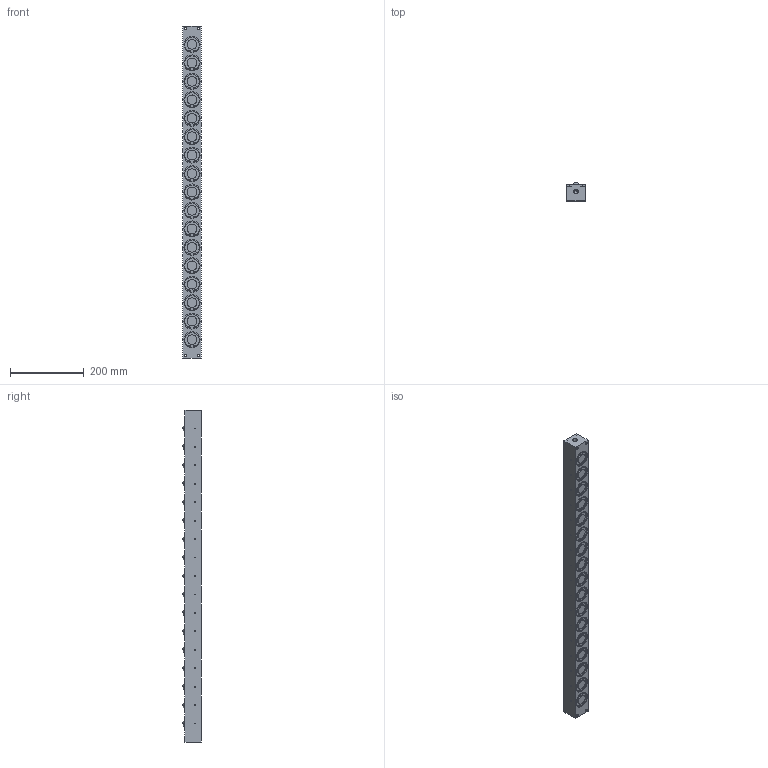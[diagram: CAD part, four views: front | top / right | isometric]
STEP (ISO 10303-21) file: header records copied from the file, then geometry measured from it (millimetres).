
FILE_DESCRIPTION (( 'STEP AP203' ), '1' );
FILE_NAME ('PVL55SW-17.STEP', '2016-01-06T02:25:39', ( '' ), ( '' ), 'SwSTEP 2.0', 'SolidWorks 2013', '' );
FILE_SCHEMA (( 'CONFIG_CONTROL_DESIGN' ));
Length unit declared in the file: millimetre
Products named in the file (1): PVL55SW-17
Bounding box: 49 x 50 x 900 mm (x, y, z)
Volume: 1906326.7 mm3; surface area: 222912.4 mm2
Topology: 2 solids, 2 shells, 813 faces, 1895 edges, 1209 vertices
Faces by surface type: cylinder 498, plane 207, cone 74, sphere 34
Entity records: 23278 total; most frequent: DIRECTION 4553, CARTESIAN_POINT 3846, ORIENTED_EDGE 3646, AXIS2_PLACEMENT_3D 1916, EDGE_CURVE 1823, VERTEX_POINT 1209, CIRCLE 1102, EDGE_LOOP 1016
